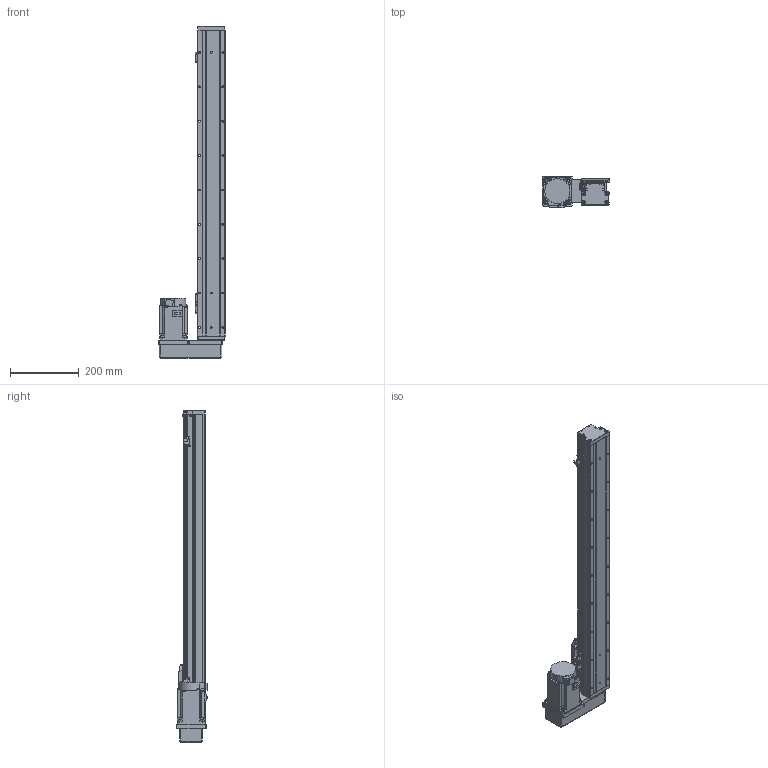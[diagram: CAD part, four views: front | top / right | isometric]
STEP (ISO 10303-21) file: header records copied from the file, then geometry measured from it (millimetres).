
FILE_DESCRIPTION (( 'STEP AP203' ), '1' );
FILE_NAME ('GTH8-700-BL-M75-C4.step', '2023-02-14T02:25:16', ( '微软用户' ), ( '微软中国' ), 'SwSTEP 2.0', 'SolidWorks 2020', '' );
FILE_SCHEMA (( 'CONFIG_CONTROL_DESIGN' ));
Length unit declared in the file: millimetre
Products named in the file (18): GBT96.1-2002 3×0.8; GTH80-004; GTH80-028; BTH-M3X5X6; GTH80-006; GTH50-024; CTHA86-015-3_CTHA86-015-4; GTH80-013; CTHA86-035; GBT 70.3-M3℅6; hg-kn73j_-s100; GTH80-022; GTH80-001_700; GTH8-700-BL-M75-C4; GBT 70.1-M3℅6; GTH50-023; GTH80-003; GBT 70.1-M4×16
Assembly tree (57 placements, depth 2):
  GTH8-700-BL-M75-C4
    GTH80-001_700
    GTH80-003
    GTH80-004
    GTH80-006
    GTH80-013
    GBT 70.3-M3℅6  x4
    GTH80-022
    GBT 70.1-M3℅6  x14
    GBT 70.1-M4×16  x8
    GTH80-028  x2
    GTH50-024  x3
    GTH50-023  x3
    GBT96.1-2002 3×0.8  x6
    BTH-M3X5X6  x8
    CTHA86-015-3_CTHA86-015-4
    CTHA86-035
    hg-kn73j_-s100
Bounding box: 193.5 x 92.3 x 966 mm (x, y, z)
Volume: 5399424.5 mm3; surface area: 538961.9 mm2
Topology: 59 solids, 59 shells, 2199 faces, 5106 edges, 3128 vertices
Faces by surface type: plane 1153, cylinder 631, cone 243, torus 158, sphere 12, bspline 2
Entity records: 39736 total; most frequent: CARTESIAN_POINT 6671, DIRECTION 6557, ORIENTED_EDGE 6022, EDGE_CURVE 3011, AXIS2_PLACEMENT_3D 2314, LINE 1929, VECTOR 1929, VERTEX_POINT 1903
